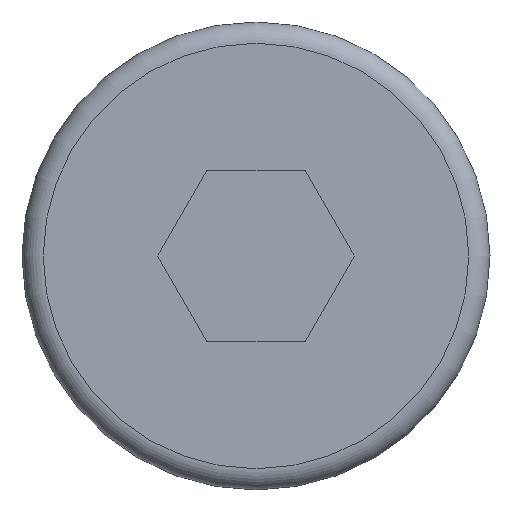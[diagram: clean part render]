
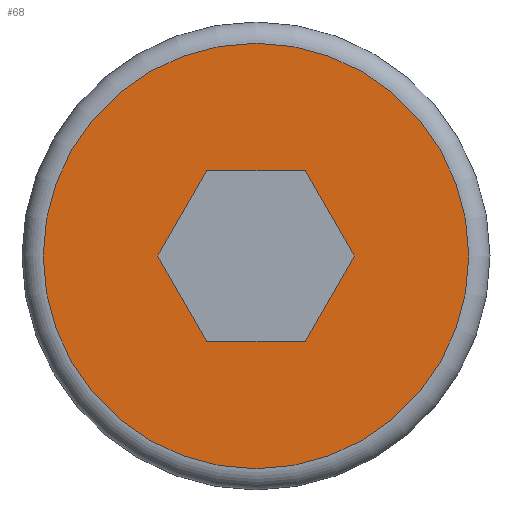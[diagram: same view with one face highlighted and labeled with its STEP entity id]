
A CAD part, left-side view. The second image highlights one B-rep face of the part: STEP entity #68.
In plain terms, the highlighted planar face has unit normal (-1, 0, 0).
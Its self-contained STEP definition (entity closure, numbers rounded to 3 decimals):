
#68=ADVANCED_FACE('',(#122,#123),#87,.T.);
#87=PLANE('',#308);
#98=LINE('',#405,#110);
#99=LINE('',#408,#111);
#100=LINE('',#410,#112);
#101=LINE('',#412,#113);
#102=LINE('',#414,#114);
#103=LINE('',#416,#115);
#110=VECTOR('',#338,1.);
#111=VECTOR('',#339,1.);
#112=VECTOR('',#340,1.);
#113=VECTOR('',#341,1.);
#114=VECTOR('',#342,1.);
#115=VECTOR('',#343,1.);
#122=FACE_BOUND('',#136,.T.);
#123=FACE_BOUND('',#137,.T.);
#136=EDGE_LOOP('',(#162));
#137=EDGE_LOOP('',(#163,#164,#165,#166,#167,#168));
#162=ORIENTED_EDGE('',*,*,#260,.F.);
#163=ORIENTED_EDGE('',*,*,#261,.T.);
#164=ORIENTED_EDGE('',*,*,#262,.T.);
#165=ORIENTED_EDGE('',*,*,#263,.T.);
#166=ORIENTED_EDGE('',*,*,#264,.T.);
#167=ORIENTED_EDGE('',*,*,#265,.T.);
#168=ORIENTED_EDGE('',*,*,#266,.T.);
#234=VERTEX_POINT('',#404);
#235=VERTEX_POINT('',#406);
#236=VERTEX_POINT('',#407);
#237=VERTEX_POINT('',#409);
#238=VERTEX_POINT('',#411);
#239=VERTEX_POINT('',#413);
#240=VERTEX_POINT('',#415);
#260=EDGE_CURVE('',#234,#234,#296,.T.);
#261=EDGE_CURVE('',#235,#236,#98,.T.);
#262=EDGE_CURVE('',#236,#237,#99,.T.);
#263=EDGE_CURVE('',#237,#238,#100,.T.);
#264=EDGE_CURVE('',#238,#239,#101,.T.);
#265=EDGE_CURVE('',#239,#240,#102,.T.);
#266=EDGE_CURVE('',#240,#235,#103,.T.);
#296=CIRCLE('',#307,2.5);
#307=AXIS2_PLACEMENT_3D('',#403,#336,#337);
#308=AXIS2_PLACEMENT_3D('',#417,#344,#345);
#336=DIRECTION('',(1.,0.,0.));
#337=DIRECTION('',(0.,0.,-1.));
#338=DIRECTION('',(0.,1.,0.));
#339=DIRECTION('',(0.,0.5,0.866));
#340=DIRECTION('',(0.,-0.5,0.866));
#341=DIRECTION('',(0.,-1.,0.));
#342=DIRECTION('',(0.,-0.5,-0.866));
#343=DIRECTION('',(0.,0.5,-0.866));
#344=DIRECTION('',(-1.,0.,0.));
#345=DIRECTION('',(0.,0.,1.));
#403=CARTESIAN_POINT('',(-1714.773,-35.927,0.));
#404=CARTESIAN_POINT('',(-1714.773,-35.927,-2.5));
#405=CARTESIAN_POINT('',(-1714.773,-33.427,-1.));
#406=CARTESIAN_POINT('',(-1714.773,-36.505,-1.));
#407=CARTESIAN_POINT('',(-1714.773,-35.35,-1.));
#408=CARTESIAN_POINT('',(-1714.773,-35.35,-1.));
#409=CARTESIAN_POINT('',(-1714.773,-34.773,0.));
#410=CARTESIAN_POINT('',(-1714.773,-34.773,0.));
#411=CARTESIAN_POINT('',(-1714.773,-35.35,1.));
#412=CARTESIAN_POINT('',(-1714.773,-33.427,1.));
#413=CARTESIAN_POINT('',(-1714.773,-36.505,1.));
#414=CARTESIAN_POINT('',(-1714.773,-36.505,1.));
#415=CARTESIAN_POINT('',(-1714.773,-37.082,0.));
#416=CARTESIAN_POINT('',(-1714.773,-37.082,0.));
#417=CARTESIAN_POINT('',(-1714.773,-33.427,0.));
